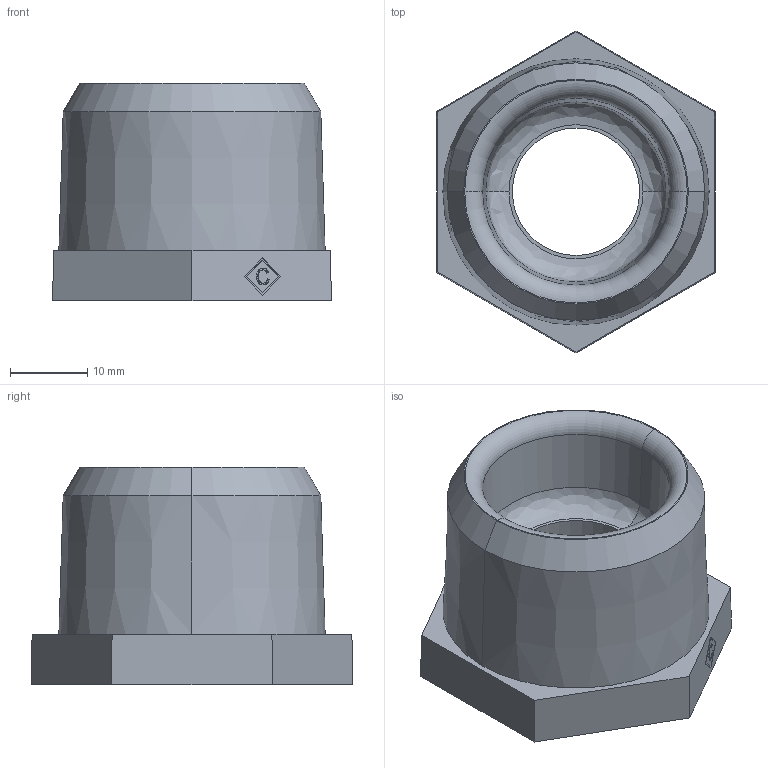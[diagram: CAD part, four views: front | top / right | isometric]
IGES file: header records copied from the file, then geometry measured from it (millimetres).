
Global section: file name: No Iges File Name specified; native system: AutoDesk Inventor R12.0; preprocessor: AutoDesk Inventor Iges Exporter R12.0; date: 20090918.104709; units: millimetre
Bounding box: 36 x 41.57 x 28.1 mm (x, y, z)
Volume: 16756.4 mm3; surface area: 6141.1 mm2
Topology: 1 solids, 1 shells, 45 faces, 106 edges, 68 vertices
Faces by surface type: plane 23, bspline 10, revolution 6, cone 4, torus 2
